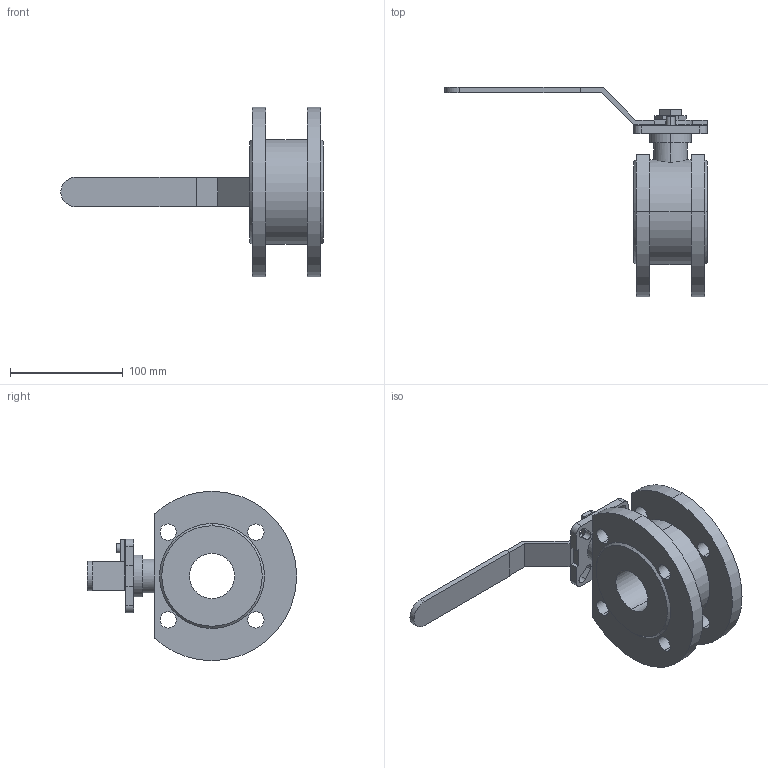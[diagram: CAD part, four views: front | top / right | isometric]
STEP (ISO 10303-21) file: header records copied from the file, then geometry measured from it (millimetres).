
FILE_DESCRIPTION (( 'STEP AP203' ), '1' );
FILE_NAME ('01.622I040X16CP.STEP', '2018-10-23T07:47:27', ( '' ), ( '' ), 'SwSTEP 2.0', 'SolidWorks 2014', '' );
FILE_SCHEMA (( 'CONFIG_CONTROL_DESIGN' ));
Length unit declared in the file: millimetre
Products named in the file (1): 01.622I040X16CP
Bounding box: 232.5 x 185.5 x 150 mm (x, y, z)
Volume: 636574.7 mm3; surface area: 106220.8 mm2
Topology: 1 solids, 1 shells, 122 faces, 321 edges, 214 vertices
Faces by surface type: plane 68, cylinder 50, cone 4
Entity records: 4014 total; most frequent: CARTESIAN_POINT 756, DIRECTION 671, ORIENTED_EDGE 642, EDGE_CURVE 321, AXIS2_PLACEMENT_3D 229, VERTEX_POINT 214, LINE 213, VECTOR 213
